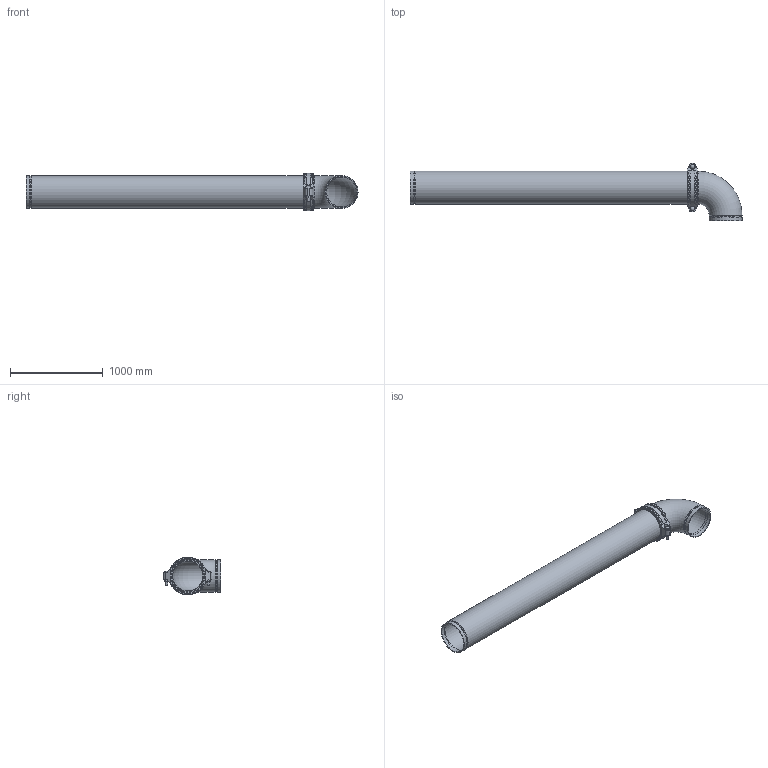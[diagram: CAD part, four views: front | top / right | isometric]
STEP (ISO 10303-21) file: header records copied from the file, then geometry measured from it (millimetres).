
FILE_DESCRIPTION(/* description */ ('VIC AGS LONG RUN FITTING No WR23 (AGS)','CAx-IF Rec.Pracs.---Representation and Presentation of Product Manufacturing Information (PMI)---4.0---2014-10-13'),/* implementation_level */ '2;1');
FILE_NAME(/* name */ 'C:\Users\kkamble\AppData\Roaming\Autodesk\ApplicationPlugins\Back Up\Victaulic_AGS_Long Run Fittings_No WR23 (AGS)\Victaulic_AGS_Long Run Fittings_No WR23 (AGS)_14 (350).stp',/* time_stamp */ '2020-10-07T02:22:04+06:00',/* author */ ('kkamble'),/* organization */ ('Victaulic'),/* preprocessor_version */ 'ST-DEVELOPER v17.2',/* originating_system */ 'Autodesk Inventor 2019',/* authorisation */ '');
FILE_SCHEMA (('AP242_MANAGED_MODEL_BASED_3D_ENGINEERING_MIM_LF { 1 0 10303 442 1 1 4 }'));
Length unit declared in the file: inch
Products named in the file (4): WR23-14.0; WR23-14.0_1; W77-14.0; W10-14.0
Assembly tree (3 placements, depth 2):
  WR23-14.0
    WR23-14.0_1
    W77-14.0
    W10-14.0
Bounding box: 3589.27 x 617.6 x 406.36 mm (x, y, z)
Volume: 45047280.5 mm3; surface area: 8387875 mm2
Topology: 3 solids, 5 shells, 319 faces, 934 edges, 637 vertices
Faces by surface type: cylinder 153, plane 106, torus 50, cone 8, sphere 2
Full cylindrical faces by diameter (mm): 25.4 x4, 42.85 x2, 323.596 x2, 330.2 x1, 336.55 x1, 342.9 x4, 355.6 x9
Entity records: 12860 total; most frequent: CARTESIAN_POINT 3847, ORIENTED_EDGE 1868, DIRECTION 1769, EDGE_CURVE 934, AXIS2_PLACEMENT_3D 701, VERTEX_POINT 637, CIRCLE 371, LINE 367
